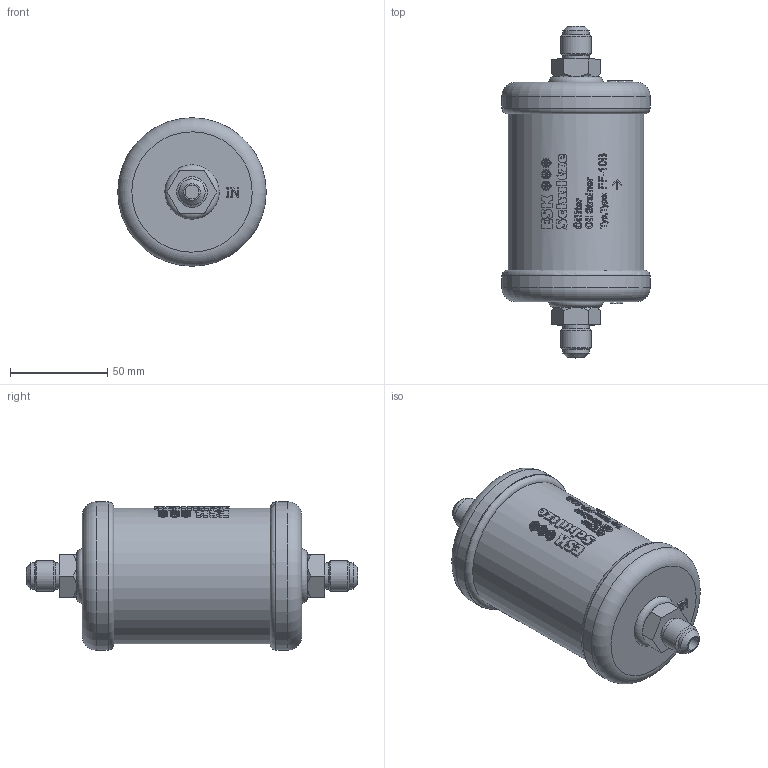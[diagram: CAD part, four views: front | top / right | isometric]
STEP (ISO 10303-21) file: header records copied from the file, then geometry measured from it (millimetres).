
FILE_DESCRIPTION(/* description */ (''),/* implementation_level */ '2;1');
FILE_NAME(/* name */ 'P:\F\FF-10B\FF-10B.stp',/* time_stamp */ '2015-07-02T11:46:31+02:00',/* author */ ('neufeld'),/* organization */ (''),/* preprocessor_version */ 'ST-DEVELOPER v15.2',/* originating_system */ 'Autodesk Inventor 2014',/* authorisation */ '');
FILE_SCHEMA (('AUTOMOTIVE_DESIGN { 1 0 10303 214 3 1 1 }'));
Length unit declared in the file: millimetre
Products named in the file (1): FF-10B_AG-Kunde
Bounding box: 76.43 x 171.01 x 76.43 mm (x, y, z)
Volume: 468314.4 mm3; surface area: 39145.2 mm2
Topology: 1 solids, 1 shells, 905 faces, 2446 edges, 1628 vertices
Faces by surface type: plane 553, bspline 248, cylinder 78, cone 18, torus 8
Full cylindrical faces by diameter (mm): 7.2 x2, 13.5 x4, 15.88 x2, 70 x1, 76.434 x2
Entity records: 32920 total; most frequent: CARTESIAN_POINT 11239, ORIENTED_EDGE 4830, DIRECTION 3945, EDGE_CURVE 2415, VERTEX_POINT 1622, AXIS2_PLACEMENT_3D 1392, LINE 1161, VECTOR 1161
